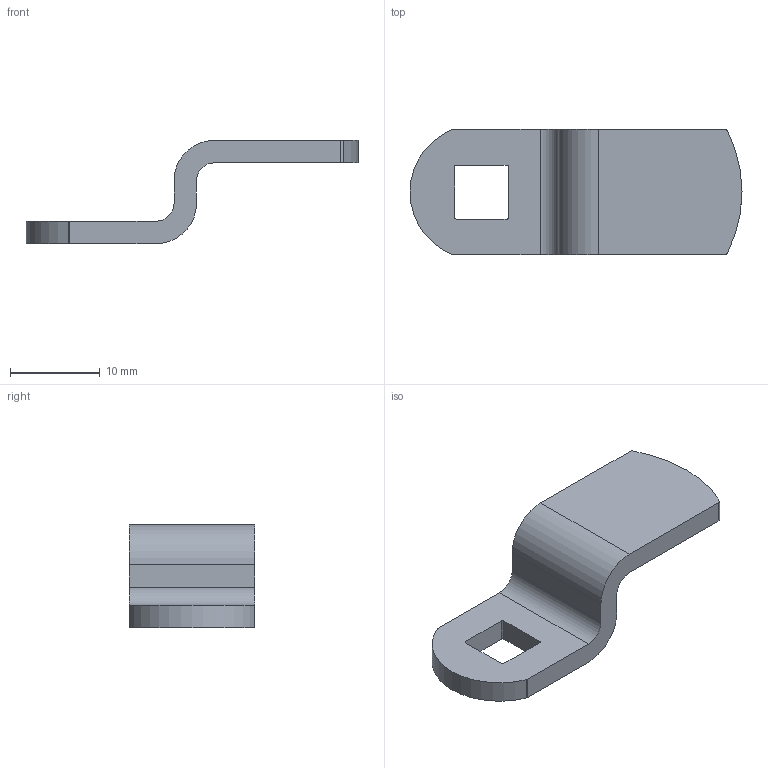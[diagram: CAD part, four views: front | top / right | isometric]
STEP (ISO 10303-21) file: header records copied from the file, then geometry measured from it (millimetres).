
FILE_DESCRIPTION(/* description */ ('Riegel 460'),/* implementation_level */ '2;1');
FILE_NAME(/* name */ 'S:\DWG\Datenaustausch_mit_Kunden\sonstiges_Einzelteile_Baugruppen_von_MLM_HL\1590460.stp',/* time_stamp */ '2016-05-30T10:14:21+02:00',/* author */ ('Wittkämper'),/* organization */ (''),/* preprocessor_version */ 'ST-DEVELOPER v16.1',/* originating_system */ 'Autodesk Inventor 2016',/* authorisation */ '');
FILE_SCHEMA (('AUTOMOTIVE_DESIGN { 1 0 10303 214 3 1 1 }'));
Length unit declared in the file: millimetre
Products named in the file (1): 1590460
Bounding box: 37 x 14 x 11.5 mm (x, y, z)
Volume: 1355.8 mm3; surface area: 1408.7 mm2
Topology: 1 solids, 1 shells, 26 faces, 72 edges, 48 vertices
Faces by surface type: cylinder 14, plane 12
Entity records: 872 total; most frequent: DIRECTION 154, CARTESIAN_POINT 147, ORIENTED_EDGE 144, EDGE_CURVE 72, AXIS2_PLACEMENT_3D 55, VERTEX_POINT 48, LINE 44, VECTOR 44
